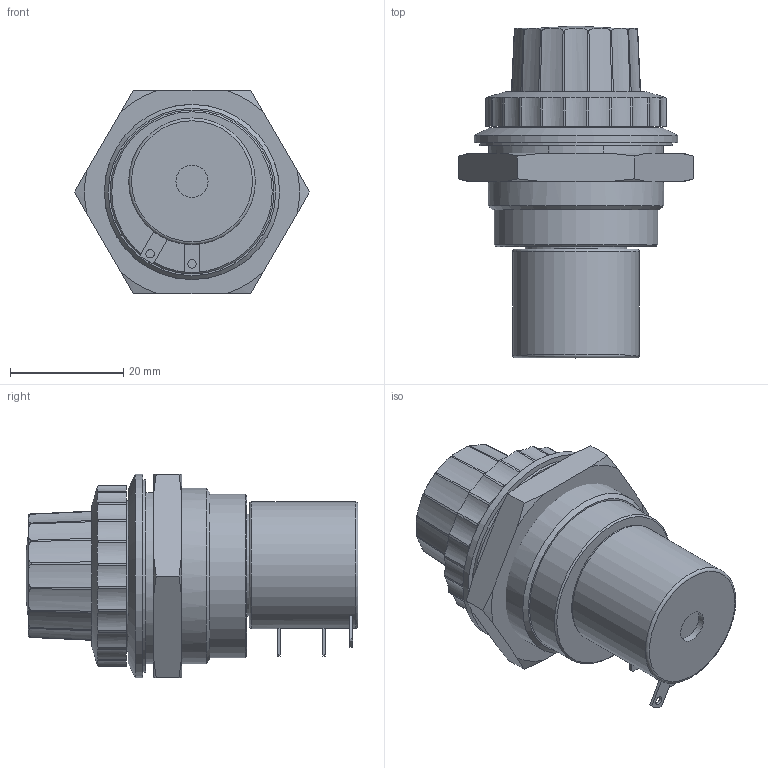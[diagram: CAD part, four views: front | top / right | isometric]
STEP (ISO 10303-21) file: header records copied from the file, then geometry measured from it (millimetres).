
FILE_DESCRIPTION (( 'STEP AP214' ), '1' );
FILE_NAME ('MD32.STEP', '2019-04-29T12:08:57', ( '' ), ( '' ), 'SwSTEP 2.0', 'SolidWorks 2017', '' );
FILE_SCHEMA (( 'AUTOMOTIVE_DESIGN' ));
Length unit declared in the file: millimetre
Products named in the file (9): md32_huelse_innen; md32_mutter; md32_dichtung; AL1710M; MD32; 58.000.xx.ein; hex nut_AL1710M; 58.000.xx.ein_Verdrehschutzscheibe; MD32_Huelse_aussen
Assembly tree (8 placements, depth 2):
  MD32
    AL1710M
    MD32_Huelse_aussen
    58.000.xx.ein
    58.000.xx.ein_Verdrehschutzscheibe
    md32_mutter
    md32_dichtung
    hex nut_AL1710M
    md32_huelse_innen
Bounding box: 41.57 x 58.72 x 36 mm (x, y, z)
Volume: 31478.6 mm3; surface area: 20576.4 mm2
Topology: 9 solids, 9 shells, 323 faces, 835 edges, 551 vertices
Faces by surface type: plane 137, cylinder 105, cone 38, bspline 23, torus 19, sphere 1
Full cylindrical faces by diameter (mm): 1.5 x4, 2.5 x1, 5.7 x1, 6.35 x2, 8.5 x1, 9.5 x1, 9.7 x1, 10.3 x1, 10.32 x1, 15.5 x2, 18 x1, 19 x1, 22.4 x1, 23.9 x1, 24 x1, 26.7 x1, 27.3 x1, 29 x1, 30.6 x1, 31 x2, 34 x1, 36 x1
Entity records: 12711 total; most frequent: CARTESIAN_POINT 4377, ORIENTED_EDGE 1576, DIRECTION 1448, EDGE_CURVE 788, AXIS2_PLACEMENT_3D 558, VERTEX_POINT 543, EDGE_LOOP 407, FACE_OUTER_BOUND 354
